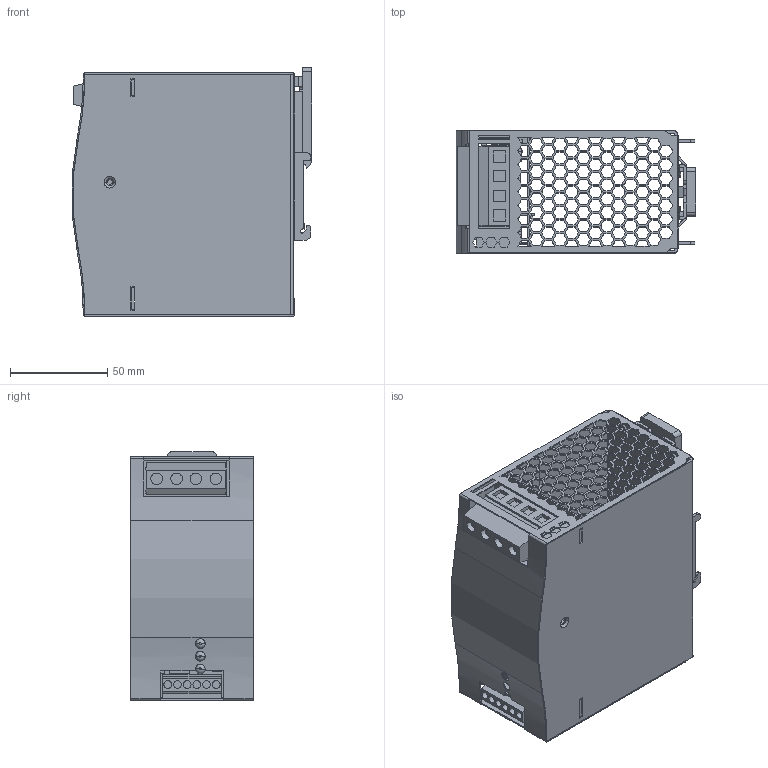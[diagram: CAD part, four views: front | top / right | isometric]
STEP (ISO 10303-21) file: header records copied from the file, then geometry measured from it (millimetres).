
FILE_DESCRIPTION(('Creo Elements/Direct Modeling STEP Export'),'2;1');
FILE_NAME('DUPS-40.stp','2021-11-02T14:52:44',(''),(''),'PTC Creo Elements/Direct Modeling STEP processor for AP214 (Solid Model)','PTC Creo Elements/Direct Modeling 19.0A 04-Oct-2014 (C) Parametric Technology GmbH','');
FILE_SCHEMA(('AUTOMOTIVE_DESIGN { 1 0 10303 214 1 1 1 1 }'));
Length unit declared in the file: millimetre
Products named in the file (43): MOS; PCB1; PCB2; HS2; HS; LED.1; A2_1; A1; A2; FU_2; A3; MOS15_5X10_1_1_1_1_1_1_1_1_1.1; U; P3_1_1; LED_1_1; LED_1; LED; DD; P1_1; SS; RAY2.2; RAY; A1_1; FU; FU.1; 40-D_ASM; gg.1; p1; 1GG1HS-507; 1GG1HS-SZ151; 1GG4CU-SZ057; PCBA; PCB; 1GG4CU-SZ056-old; 1GG4CU-SZ056.1; 1GG1HS-SZ153; CASE1; CASE2; P3_2; P3_1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
Assembly tree (46 placements, depth 5):
  DUPS-40
    装配1
      挂座
        P3_1
        P3_2
      CASE2
      CASE1
    1GG1HS-SZ153
    1GG4CU-SZ056.1
    1GG4CU-SZ056-old
    PCB
      PCBA
    1GG4CU-SZ057
    1GG1HS-SZ151
    1GG1HS-507
      p1
      gg.1
    40-D_ASM
      FU.1
      FU
      A1_1
        RAY
        RAY2.2  x3
        SS
        P1_1
        DD
        LED
        LED_1  x2
        LED_1_1
        P3_1_1
        U
        MOS15_5X10_1_1_1_1_1_1_1_1_1.1  x2
      A3
      FU_2
      A2
        A1
          A2_1
          LED.1
        HS
        HS2
        PCB2
        PCB1
        MOS
Bounding box: 123.41 x 63 x 127.81 mm (x, y, z)
Volume: 146928.1 mm3; surface area: 168973.2 mm2
Topology: 29 solids, 29 shells, 2279 faces, 6504 edges, 4320 vertices
Faces by surface type: plane 1936, cylinder 265, torus 54, cone 14, bspline 10
Entity records: 77445 total; most frequent: CARTESIAN_POINT 15974, ORIENTED_EDGE 12802, DIRECTION 11182, EDGE_CURVE 6401, VECTOR 5686, LINE 5686, VERTEX_POINT 4251, EDGE_LOOP 2816
